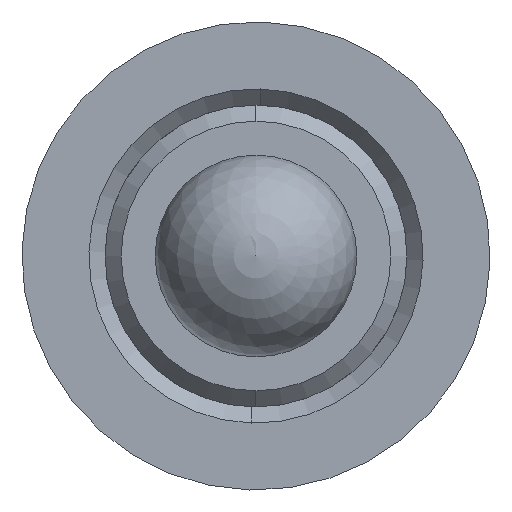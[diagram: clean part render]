
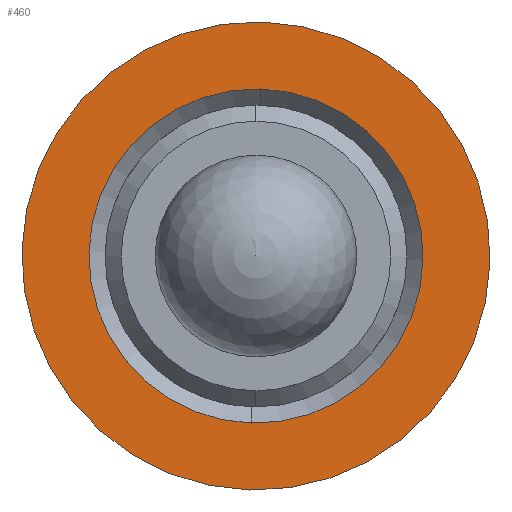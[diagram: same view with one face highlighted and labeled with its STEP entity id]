
A CAD part, left-side view. The second image highlights one B-rep face of the part: STEP entity #460.
In plain terms, the highlighted planar face has unit normal (-1, 0, 0).
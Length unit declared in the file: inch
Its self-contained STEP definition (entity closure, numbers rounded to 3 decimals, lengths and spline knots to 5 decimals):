
#43 = VERTEX_POINT ( 'NONE', #244 ) ;
#49 = CARTESIAN_POINT ( 'NONE',  ( -2.21324, 3.75748, -0.145 ) ) ;
#61 = CIRCLE ( 'NONE', #183, 0.145 ) ;
#145 = VERTEX_POINT ( 'NONE', #602 ) ;
#178 = ORIENTED_EDGE ( 'NONE', *, *, #1110, .T. ) ;
#183 = AXIS2_PLACEMENT_3D ( 'NONE', #422, #418, #489 ) ;
#244 = CARTESIAN_POINT ( 'NONE',  ( -2.21324, 3.75748, 0.1035 ) ) ;
#368 = CIRCLE ( 'NONE', #572, 0.1035 ) ;
#380 = DIRECTION ( 'NONE',  ( 0., 0., 1. ) ) ;
#391 = AXIS2_PLACEMENT_3D ( 'NONE', #404, #395, #380 ) ;
#395 = DIRECTION ( 'NONE',  ( -1., 0., 0. ) ) ;
#404 = CARTESIAN_POINT ( 'NONE',  ( -2.21324, 3.75748, 0. ) ) ;
#418 = DIRECTION ( 'NONE',  ( -1., 0., 0. ) ) ;
#422 = CARTESIAN_POINT ( 'NONE',  ( -2.21324, 3.75748, 0. ) ) ;
#428 = ORIENTED_EDGE ( 'NONE', *, *, #1103, .T. ) ;
#460 = ADVANCED_FACE ( 'NONE', ( #1126, #865 ), #974, .F. ) ;
#483 = EDGE_CURVE ( 'NONE', #43, #145, #368, .T. ) ;
#489 = DIRECTION ( 'NONE',  ( 0., 0., 1. ) ) ;
#514 = CIRCLE ( 'NONE', #1129, 0.1035 ) ;
#525 = CIRCLE ( 'NONE', #391, 0.145 ) ;
#572 = AXIS2_PLACEMENT_3D ( 'NONE', #846, #843, #840 ) ;
#594 = VERTEX_POINT ( 'NONE', #721 ) ;
#602 = CARTESIAN_POINT ( 'NONE',  ( -2.21324, 3.75748, -0.1035 ) ) ;
#607 = DIRECTION ( 'NONE',  ( 0., 0., -1. ) ) ;
#610 = DIRECTION ( 'NONE',  ( 1., 0., 0. ) ) ;
#611 = CARTESIAN_POINT ( 'NONE',  ( -2.21324, 3.75748, 0. ) ) ;
#622 = EDGE_CURVE ( 'NONE', #145, #43, #514, .T. ) ;
#644 = AXIS2_PLACEMENT_3D ( 'NONE', #879, #874, #871 ) ;
#721 = CARTESIAN_POINT ( 'NONE',  ( -2.21324, 3.75748, 0.145 ) ) ;
#840 = DIRECTION ( 'NONE',  ( 0., 0., -1. ) ) ;
#843 = DIRECTION ( 'NONE',  ( 1., 0., 0. ) ) ;
#844 = VERTEX_POINT ( 'NONE', #49 ) ;
#846 = CARTESIAN_POINT ( 'NONE',  ( -2.21324, 3.75748, 0. ) ) ;
#865 = FACE_OUTER_BOUND ( 'NONE', #928, .T. ) ;
#871 = DIRECTION ( 'NONE',  ( 0., 0., -1. ) ) ;
#874 = DIRECTION ( 'NONE',  ( 1., 0., 0. ) ) ;
#879 = CARTESIAN_POINT ( 'NONE',  ( -2.21324, 3.75748, 0. ) ) ;
#898 = EDGE_LOOP ( 'NONE', ( #1167, #970 ) ) ;
#928 = EDGE_LOOP ( 'NONE', ( #428, #178 ) ) ;
#970 = ORIENTED_EDGE ( 'NONE', *, *, #622, .T. ) ;
#974 = PLANE ( 'NONE',  #644 ) ;
#1103 = EDGE_CURVE ( 'NONE', #594, #844, #61, .T. ) ;
#1110 = EDGE_CURVE ( 'NONE', #844, #594, #525, .T. ) ;
#1126 = FACE_BOUND ( 'NONE', #898, .T. ) ;
#1129 = AXIS2_PLACEMENT_3D ( 'NONE', #611, #610, #607 ) ;
#1167 = ORIENTED_EDGE ( 'NONE', *, *, #483, .T. ) ;
